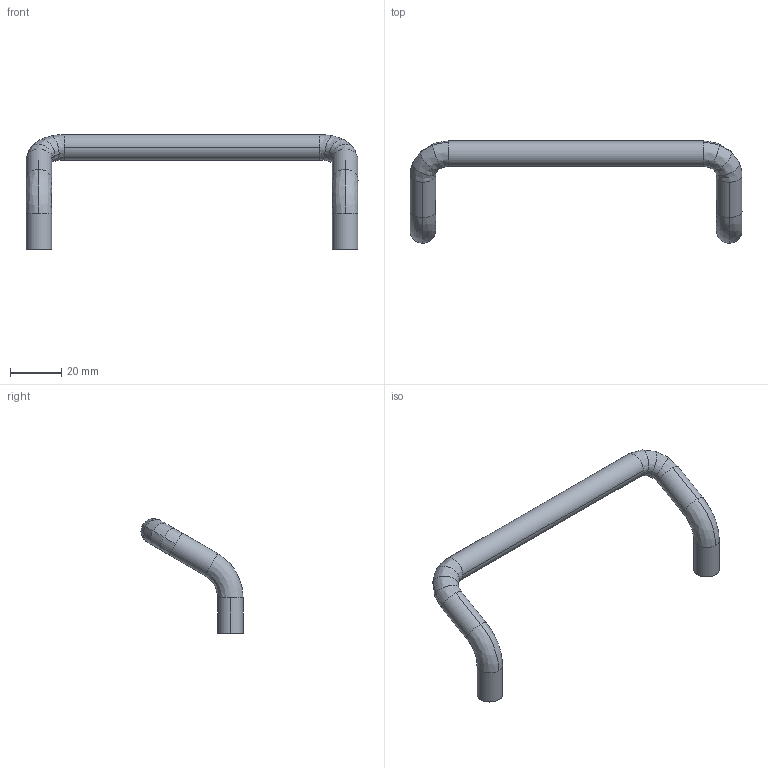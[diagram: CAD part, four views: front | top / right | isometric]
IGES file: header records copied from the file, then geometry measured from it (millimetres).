
Start section: SolidWorks IGES file using analytic representation for surfaces
Global section: file name: X:\11_SW2020-Inv2020\00_全2021-11新製品まで\r\RD3-120N\rd3-120n.IGS; native system: SolidWorks 2020; preprocessor: SolidWorks 2020; author: ImaoCorp; date: 211026.143612; units: millimetre
Bounding box: 130 x 40 x 45 mm (x, y, z)
Surface area: 7463.9 mm2 (no closed solid volume)
Topology: 0 solids, 0 shells, 42 faces, 368 edges, 368 vertices
Faces by surface type: bspline 24, revolution 18
